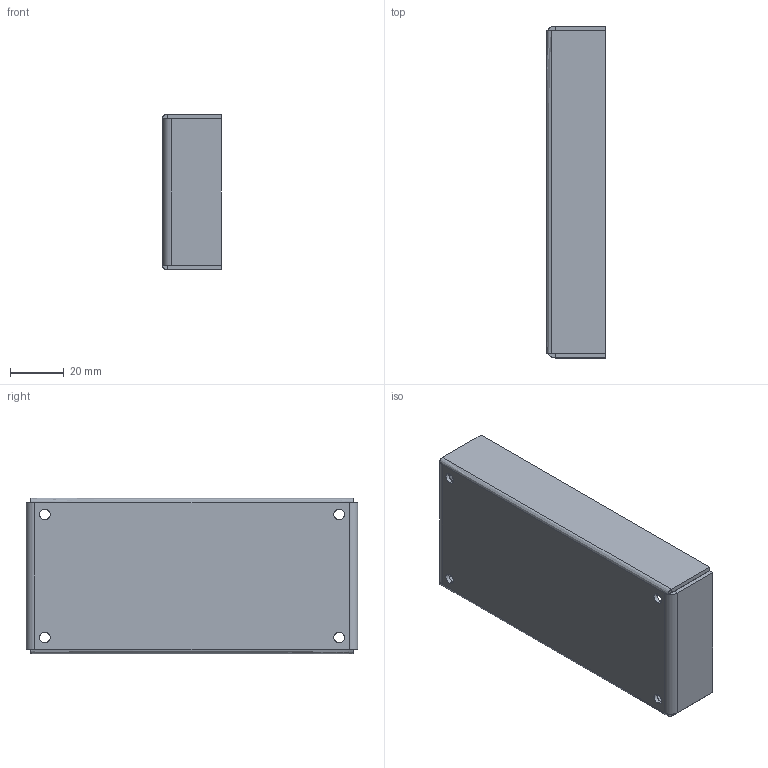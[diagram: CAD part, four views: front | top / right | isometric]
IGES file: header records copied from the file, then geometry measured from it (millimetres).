
Start section: SolidWorks IGES FILE using analytic representation for surfaces
Global section: file name: \\Ls-wvld1d\share\シブタニ\3D設計\梅谷設計\20140106受領_\取手\EDU-84-2\EDU-84B-2\EDU-84B-2.IGS,41HSolidWorks; native system: 2003 by SolidWorks Corporation; preprocessor: Version 5.3; author: user; date: 140122.153110; units: millimetre
Bounding box: 22 x 124 x 58.2 mm (x, y, z)
Surface area: 29145.1 mm2 (no closed solid volume)
Topology: 0 solids, 0 shells, 50 faces, 556 edges, 556 vertices
Faces by surface type: bspline 34, revolution 16
